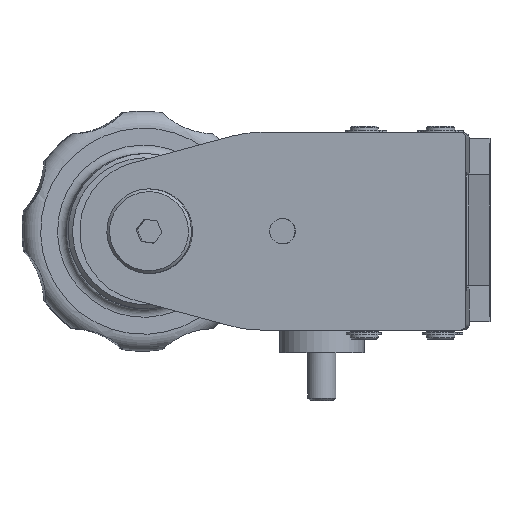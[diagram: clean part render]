
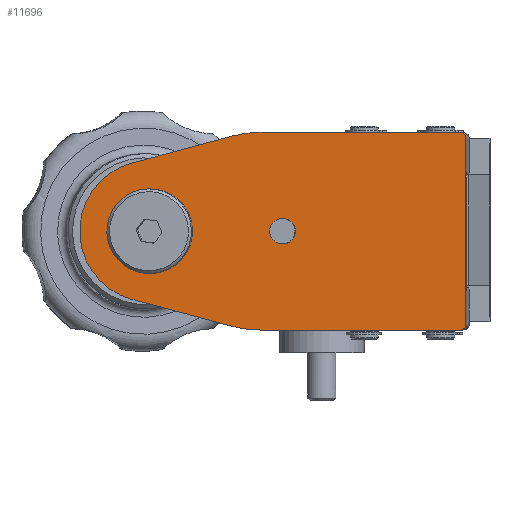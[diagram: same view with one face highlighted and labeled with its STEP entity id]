
A CAD part, left-side view. The second image highlights one B-rep face of the part: STEP entity #11696.
In plain terms, the highlighted planar face has unit normal (-0.999, 0.055, 0).
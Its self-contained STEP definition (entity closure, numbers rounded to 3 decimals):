
#1386=LINE('',#20402,#2179);
#1412=LINE('',#20703,#2205);
#1423=LINE('',#20728,#2216);
#1424=LINE('',#20732,#2217);
#1425=LINE('',#20736,#2218);
#2179=VECTOR('',#16072,10.);
#2205=VECTOR('',#16310,10.);
#2216=VECTOR('',#16343,10.);
#2217=VECTOR('',#16346,10.);
#2218=VECTOR('',#16349,10.);
#2530=FACE_BOUND('',#3809,.T.);
#2531=FACE_BOUND('',#3810,.T.);
#3082=FACE_OUTER_BOUND('',#3808,.T.);
#3808=EDGE_LOOP('',(#10385,#10386,#10387,#10388,#10389,#10390,#10391,#10392,
#10393,#10394));
#3809=EDGE_LOOP('',(#10395));
#3810=EDGE_LOOP('',(#10396));
#4017=CIRCLE('',#12004,15.);
#4083=CIRCLE('',#12127,4.5);
#4573=CIRCLE('',#13010,2.);
#4574=CIRCLE('',#13012,2.);
#4579=CIRCLE('',#13030,40.);
#4580=CIRCLE('',#13031,25.);
#4581=CIRCLE('',#13032,40.);
#4829=VERTEX_POINT('',#17772);
#4975=VERTEX_POINT('',#18277);
#5618=VERTEX_POINT('',#20399);
#5619=VERTEX_POINT('',#20401);
#5676=VERTEX_POINT('',#20687);
#5677=VERTEX_POINT('',#20691);
#5678=VERTEX_POINT('',#20702);
#5681=VERTEX_POINT('',#20727);
#5682=VERTEX_POINT('',#20729);
#5683=VERTEX_POINT('',#20731);
#5684=VERTEX_POINT('',#20733);
#5685=VERTEX_POINT('',#20735);
#6014=EDGE_CURVE('',#4829,#4829,#4017,.T.);
#6202=EDGE_CURVE('',#4975,#4975,#4083,.T.);
#7174=EDGE_CURVE('',#5618,#5619,#1386,.T.);
#7272=EDGE_CURVE('',#5619,#5676,#4573,.T.);
#7274=EDGE_CURVE('',#5677,#5618,#4574,.T.);
#7280=EDGE_CURVE('',#5678,#5676,#1412,.T.);
#7293=EDGE_CURVE('',#5677,#5681,#1423,.T.);
#7294=EDGE_CURVE('',#5681,#5682,#4579,.T.);
#7295=EDGE_CURVE('',#5682,#5683,#1424,.T.);
#7296=EDGE_CURVE('',#5683,#5684,#4580,.T.);
#7297=EDGE_CURVE('',#5684,#5685,#1425,.T.);
#7298=EDGE_CURVE('',#5685,#5678,#4581,.T.);
#10385=ORIENTED_EDGE('',*,*,#7272,.F.);
#10386=ORIENTED_EDGE('',*,*,#7174,.F.);
#10387=ORIENTED_EDGE('',*,*,#7274,.F.);
#10388=ORIENTED_EDGE('',*,*,#7293,.T.);
#10389=ORIENTED_EDGE('',*,*,#7294,.T.);
#10390=ORIENTED_EDGE('',*,*,#7295,.T.);
#10391=ORIENTED_EDGE('',*,*,#7296,.T.);
#10392=ORIENTED_EDGE('',*,*,#7297,.T.);
#10393=ORIENTED_EDGE('',*,*,#7298,.T.);
#10394=ORIENTED_EDGE('',*,*,#7280,.T.);
#10395=ORIENTED_EDGE('',*,*,#6014,.T.);
#10396=ORIENTED_EDGE('',*,*,#6202,.T.);
#11122=PLANE('',#13029);
#11696=ADVANCED_FACE('',(#3082,#2530,#2531),#11122,.T.);
#12004=AXIS2_PLACEMENT_3D('',#17773,#13652,#13653);
#12127=AXIS2_PLACEMENT_3D('',#18278,#13995,#13996);
#13010=AXIS2_PLACEMENT_3D('',#20688,#16288,#16289);
#13012=AXIS2_PLACEMENT_3D('',#20692,#16293,#16294);
#13029=AXIS2_PLACEMENT_3D('',#20726,#16341,#16342);
#13030=AXIS2_PLACEMENT_3D('',#20730,#16344,#16345);
#13031=AXIS2_PLACEMENT_3D('',#20734,#16347,#16348);
#13032=AXIS2_PLACEMENT_3D('',#20737,#16350,#16351);
#13652=DIRECTION('center_axis',(0.998,-0.055,0.));
#13653=DIRECTION('ref_axis',(-0.007,-0.129,0.992));
#13995=DIRECTION('center_axis',(0.998,-0.055,0.));
#13996=DIRECTION('ref_axis',(-0.055,-0.998,0.));
#16072=DIRECTION('',(0.,0.,-1.));
#16288=DIRECTION('center_axis',(0.998,-0.055,0.));
#16289=DIRECTION('ref_axis',(-0.055,-0.998,0.));
#16293=DIRECTION('center_axis',(0.998,-0.055,0.));
#16294=DIRECTION('ref_axis',(0.,0.,1.));
#16310=DIRECTION('',(-0.055,-0.998,0.));
#16341=DIRECTION('center_axis',(-0.998,0.055,0.));
#16342=DIRECTION('ref_axis',(0.,0.,1.));
#16343=DIRECTION('',(0.055,0.998,0.));
#16344=DIRECTION('center_axis',(-0.998,0.055,0.));
#16345=DIRECTION('ref_axis',(0.,0.,
-1.));
#16346=DIRECTION('',(0.054,0.964,-0.259));
#16347=DIRECTION('center_axis',(-0.998,0.055,0.));
#16348=DIRECTION('ref_axis',(-0.014,-0.258,-0.966));
#16349=DIRECTION('',(-0.054,-0.964,-0.259));
#16350=DIRECTION('center_axis',(-0.998,0.055,0.));
#16351=DIRECTION('ref_axis',(-0.014,-0.258,0.966));
#17772=CARTESIAN_POINT('',(-44.71,87.704,-14.875));
#17773=CARTESIAN_POINT('Origin',(-44.817,85.772,0.));
#18277=CARTESIAN_POINT('',(-47.174,43.337,0.));
#18278=CARTESIAN_POINT('Origin',(-47.423,38.844,0.));
#20399=CARTESIAN_POINT('',(-51.027,-26.056,33.));
#20401=CARTESIAN_POINT('',(-51.027,-26.056,-33.));
#20402=CARTESIAN_POINT('',(-51.027,-26.056,0.));
#20687=CARTESIAN_POINT('',(-50.916,-24.059,-35.));
#20688=CARTESIAN_POINT('Origin',(-50.916,-24.059,-33.));
#20691=CARTESIAN_POINT('',(-50.916,-24.059,35.));
#20692=CARTESIAN_POINT('Origin',(-50.916,-24.059,33.));
#20702=CARTESIAN_POINT('',(-46.996,46.537,-35.));
#20703=CARTESIAN_POINT('',(-43.431,110.733,-35.));
#20726=CARTESIAN_POINT('Origin',(-51.027,-26.056,0.));
#20727=CARTESIAN_POINT('',(-46.996,46.537,35.));
#20728=CARTESIAN_POINT('',(-43.431,110.733,35.));
#20729=CARTESIAN_POINT('',(-46.422,56.874,33.637));
#20730=CARTESIAN_POINT('Origin',(-46.996,46.537,-5.));
#20731=CARTESIAN_POINT('',(-44.459,92.232,24.148));
#20732=CARTESIAN_POINT('',(-47.355,40.064,38.148));
#20733=CARTESIAN_POINT('',(-44.459,92.232,-24.148));
#20734=CARTESIAN_POINT('Origin',(-44.817,85.772,0.));
#20735=CARTESIAN_POINT('',(-46.422,56.874,-33.637));
#20736=CARTESIAN_POINT('',(-48.337,22.385,-42.893));
#20737=CARTESIAN_POINT('Origin',(-46.996,46.537,5.));
